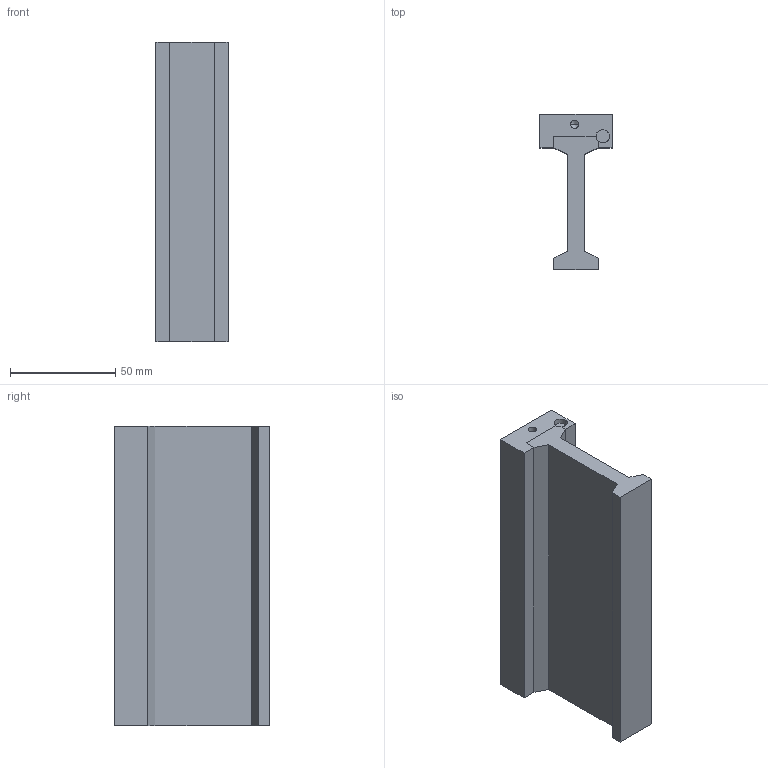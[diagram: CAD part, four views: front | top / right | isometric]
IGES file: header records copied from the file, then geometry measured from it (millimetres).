
Global section: file name: No Iges File Name specified; native system: AutoDesk Inventor R11.0; preprocessor: AutoDesk Inventor Iges Exporter R11.0; author: No Author specified; organization: No Organization specified; date: 20080205.101045; units: inch
Bounding box: 34.29 x 73.66 x 142.24 mm (x, y, z)
Volume: 157467.9 mm3; surface area: 36092.4 mm2
Topology: 1 solids, 1 shells, 49 faces, 125 edges, 71 vertices
Faces by surface type: bspline 28, plane 19, revolution 2
